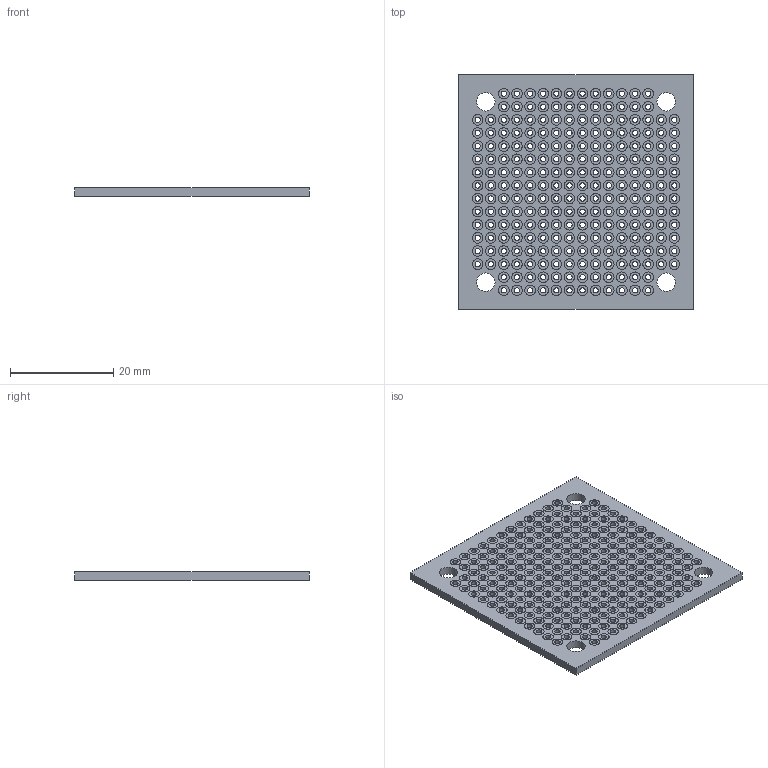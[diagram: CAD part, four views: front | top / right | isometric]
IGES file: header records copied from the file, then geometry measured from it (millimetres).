
Global section: file name: No Iges File Name specified; native system: AutoDesk Inventor R6.0; preprocessor: AutoDesk Inventor Iges Exporter R6.0; author: No Author specified; organization: No Organization specified; date: 20080102.204244; units: inch
Bounding box: 45.47 x 45.47 x 1.63 mm (x, y, z)
Surface area: 5312.4 mm2 (no closed solid volume)
Topology: 0 solids, 0 shells, 730 faces, 2688 edges, 2204 vertices
Faces by surface type: bspline 364, revolution 240, plane 126
